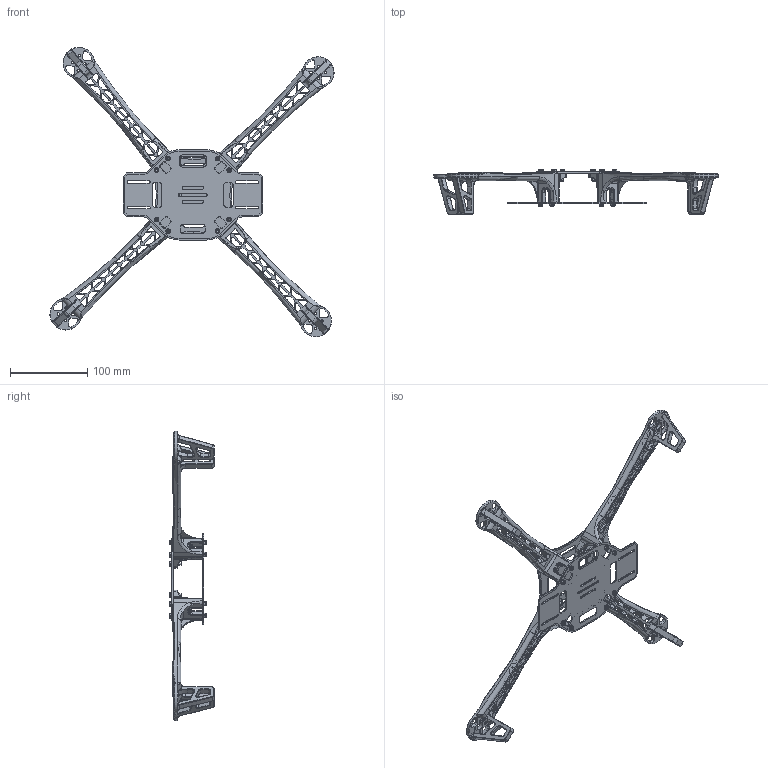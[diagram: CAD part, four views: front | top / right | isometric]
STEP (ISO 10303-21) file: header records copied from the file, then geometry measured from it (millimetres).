
FILE_DESCRIPTION(/* description */ (''),/* implementation_level */ '2;1');
FILE_NAME(/* name */ 'C:\Users\Brayo\Documents\Kipepeo\CAD\Prototype\Frame\F450-MODEL\F450 Frame Assembly.stp',/* time_stamp */ '2025-10-07T18:01:49+03:00',/* author */ ('Brayo'),/* organization */ (''),/* preprocessor_version */ 'ST-DEVELOPER v20',/* originating_system */ 'Autodesk Inventor 2022',/* authorisation */ '');
FILE_SCHEMA (('AUTOMOTIVE_DESIGN { 1 0 10303 214 3 1 1 }'));
Products named in the file (6): F450 Frame Assembly; F450 Btm Plate; F450 Top Plate; F450 Arm; BS EN ISO 4762 - M3 x 12; BS EN ISO 4762 - M3 x 5
Assembly tree (30 placements, depth 2):
  F450 Frame Assembly
    F450 Btm Plate
    F450 Arm  x4
    F450 Top Plate
    BS EN ISO 4762 - M3 x 12  x16
    BS EN ISO 4762 - M3 x 5  x8
Bounding box: 367.12 x 57.76 x 373.93 mm (x, y, z)
Volume: 182669.8 mm3; surface area: 156805 mm2
Topology: 30 solids, 30 shells, 3342 faces, 8948 edges, 5498 vertices
Faces by surface type: cylinder 1484, plane 1086, torus 324, bspline 316, cone 132
Full cylindrical faces by diameter (mm): 0.5 x144, 2.5 x24, 3 x24, 3.1 x16, 3.25 x24, 5.5 x24, 6 x16, 6.25 x32, 10 x4
Entity records: 54728 total; most frequent: CARTESIAN_POINT 20151, DIRECTION 7068, ORIENTED_EDGE 6928, EDGE_CURVE 3464, AXIS2_PLACEMENT_3D 2674, VERTEX_POINT 2222, EDGE_LOOP 1810, LINE 1720
